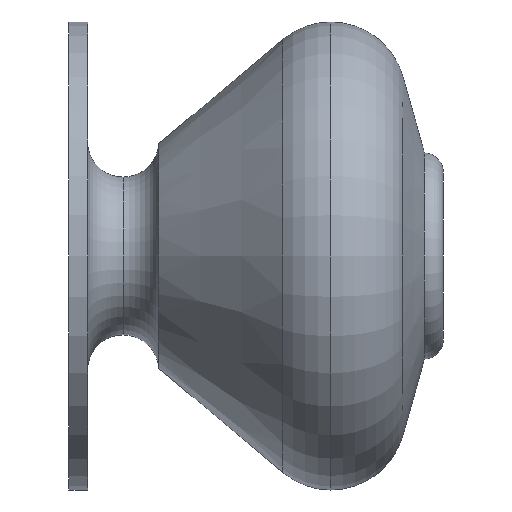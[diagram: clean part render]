
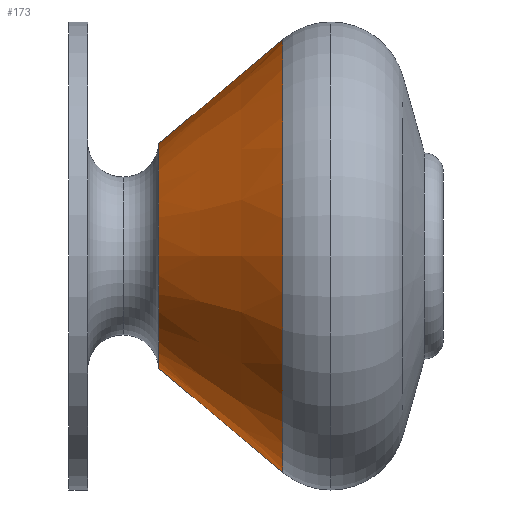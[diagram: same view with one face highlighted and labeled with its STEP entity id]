
A CAD part, left-side view. The second image highlights one B-rep face of the part: STEP entity #173.
In plain terms, the highlighted conical face has half-angle 40.027 degrees and reference radius 8.781 mm.
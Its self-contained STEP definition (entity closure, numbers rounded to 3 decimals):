
#127 = EDGE_CURVE( '', #195, #257, #322, .T. );
#155 = VERTEX_POINT( '', #353 );
#173 = ADVANCED_FACE( '', ( #372 ), #373, .T. );
#195 = VERTEX_POINT( '', #397 );
#207 = VERTEX_POINT( '', #412 );
#233 = EDGE_CURVE( '', #195, #207, #442, .T. );
#237 = EDGE_CURVE( '', #155, #207, #447, .T. );
#239 = EDGE_CURVE( '', #257, #155, #449, .T. );
#257 = VERTEX_POINT( '', #471 );
#322 = LINE( '', #535, #536 );
#353 = CARTESIAN_POINT( '', ( 0., -11.427, -11.563 ) );
#372 = FACE_OUTER_BOUND( '', #599, .T. );
#373 = CONICAL_SURFACE( '', #600, 8.781, 0.699 );
#397 = CARTESIAN_POINT( '', ( 0., -4.804, 6. ) );
#412 = CARTESIAN_POINT( '', ( 0., -4.804, -6. ) );
#442 = CIRCLE( '', #683, 6. );
#447 = LINE( '', #689, #690 );
#449 = CIRCLE( '', #693, 11.563 );
#471 = CARTESIAN_POINT( '', ( 0., -11.427, 11.563 ) );
#535 = CARTESIAN_POINT( '', ( 0., -8.116, 8.781 ) );
#536 = VECTOR( '', #781, 1. );
#599 = EDGE_LOOP( '', ( #848, #849, #850, #851 ) );
#600 = AXIS2_PLACEMENT_3D( '', #852, #853, #854 );
#683 = AXIS2_PLACEMENT_3D( '', #944, #945, #946 );
#689 = CARTESIAN_POINT( '', ( 0., -8.116, -8.781 ) );
#690 = VECTOR( '', #955, 1. );
#693 = AXIS2_PLACEMENT_3D( '', #956, #957, #958 );
#781 = DIRECTION( '', ( 0., -0.766, 0.643 ) );
#848 = ORIENTED_EDGE( '', *, *, #127, .F. );
#849 = ORIENTED_EDGE( '', *, *, #233, .T. );
#850 = ORIENTED_EDGE( '', *, *, #237, .F. );
#851 = ORIENTED_EDGE( '', *, *, #239, .F. );
#852 = CARTESIAN_POINT( '', ( 0., -8.116, 0. ) );
#853 = DIRECTION( '', ( 0., -1., 0. ) );
#854 = DIRECTION( '', ( 0., 0., 1. ) );
#944 = CARTESIAN_POINT( '', ( 0., -4.804, 0. ) );
#945 = DIRECTION( '', ( 0., -1., 0. ) );
#946 = DIRECTION( '', ( 0., 0., 1. ) );
#955 = DIRECTION( '', ( 0., 0.766, 0.643 ) );
#956 = CARTESIAN_POINT( '', ( 0., -11.427, 0. ) );
#957 = DIRECTION( '', ( 0., -1., 0. ) );
#958 = DIRECTION( '', ( 0., 0., 1. ) );
